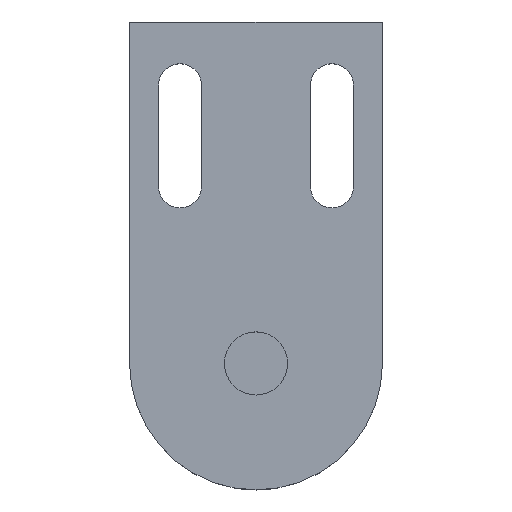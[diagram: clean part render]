
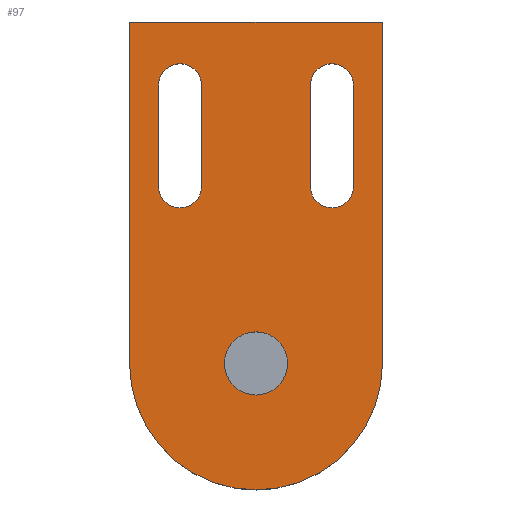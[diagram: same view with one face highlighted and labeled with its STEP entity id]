
A CAD part, top view. The second image highlights one B-rep face of the part: STEP entity #97.
In plain terms, the highlighted planar face has unit normal (0, 0, 1).
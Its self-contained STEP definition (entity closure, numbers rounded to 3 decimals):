
#1 = CARTESIAN_POINT ( 'NONE',  ( -10.75, 35., 6. ) ) ;
#2 = LINE ( 'NONE', #1, #4 ) ;
#3 = DIRECTION ( 'NONE',  ( 0., 1., 0. ) ) ;
#4 = VECTOR ( 'NONE', #3, 1000. ) ;
#5 = LINE ( 'NONE', #6, #7 ) ;
#6 = CARTESIAN_POINT ( 'NONE',  ( 19.25, 35., 6. ) ) ;
#7 = VECTOR ( 'NONE', #8, 1000. ) ;
#8 = DIRECTION ( 'NONE',  ( 0., 1., 0. ) ) ;
#9 = CARTESIAN_POINT ( 'NONE',  ( -10.75, 35., 6. ) ) ;
#11 = CARTESIAN_POINT ( 'NONE',  ( -19.25, 35., 6. ) ) ;
#16 = EDGE_LOOP ( 'NONE', ( #92, #44 ) ) ;
#17 = EDGE_CURVE ( 'NONE', #747, #748, #118, .T. ) ;
#18 = EDGE_CURVE ( 'NONE', #754, #739, #111, .T. ) ;
#19 = VERTEX_POINT ( 'NONE', #113 ) ;
#22 = ORIENTED_EDGE ( 'NONE', *, *, #50, .F. ) ;
#36 = ORIENTED_EDGE ( 'NONE', *, *, #38, .F. ) ;
#37 = EDGE_CURVE ( 'NONE', #19, #49, #119, .T. ) ;
#38 = EDGE_CURVE ( 'NONE', #47, #19, #104, .T. ) ;
#41 = EDGE_LOOP ( 'NONE', ( #43, #36, #22, #682 ) ) ;
#43 = ORIENTED_EDGE ( 'NONE', *, *, #37, .F. ) ;
#44 = ORIENTED_EDGE ( 'NONE', *, *, #743, .F. ) ;
#47 = VERTEX_POINT ( 'NONE', #105 ) ;
#49 = VERTEX_POINT ( 'NONE', #100 ) ;
#50 = EDGE_CURVE ( 'NONE', #85, #47, #107, .T. ) ;
#51 = EDGE_LOOP ( 'NONE', ( #723, #722, #681, #724 ) ) ;
#85 = VERTEX_POINT ( 'NONE', #143 ) ;
#92 = ORIENTED_EDGE ( 'NONE', *, *, #17, .F. ) ;
#95 = EDGE_CURVE ( 'NONE', #761, #754, #170, .T. ) ;
#97 = ADVANCED_FACE ( 'NONE', ( #182, #171, #167, #166 ), #134, .T. ) ;
#100 = CARTESIAN_POINT ( 'NONE',  ( 19.25, 35., 6. ) ) ;
#101 = DIRECTION ( 'NONE',  ( -1., 0., 0. ) ) ;
#102 = DIRECTION ( 'NONE',  ( 0., 0., 1. ) ) ;
#103 = AXIS2_PLACEMENT_3D ( 'NONE', #121, #102, #101 ) ;
#104 = LINE ( 'NONE', #122, #158 ) ;
#105 = CARTESIAN_POINT ( 'NONE',  ( 10.75, 55., 6. ) ) ;
#107 = CIRCLE ( 'NONE', #153, 4.25 ) ;
#109 = DIRECTION ( 'NONE',  ( 0., -1., 0. ) ) ;
#110 = VECTOR ( 'NONE', #109, 1000. ) ;
#111 = LINE ( 'NONE', #120, #110 ) ;
#113 = CARTESIAN_POINT ( 'NONE',  ( 10.75, 35., 6. ) ) ;
#114 = DIRECTION ( 'NONE',  ( 1., 0., 0. ) ) ;
#115 = DIRECTION ( 'NONE',  ( 0., 0., 1. ) ) ;
#116 = CARTESIAN_POINT ( 'NONE',  ( 0., 0., 6. ) ) ;
#117 = AXIS2_PLACEMENT_3D ( 'NONE', #116, #115, #114 ) ;
#118 = CIRCLE ( 'NONE', #117, 6.25 ) ;
#119 = CIRCLE ( 'NONE', #103, 4.25 ) ;
#120 = CARTESIAN_POINT ( 'NONE',  ( -25., 0., 6. ) ) ;
#121 = CARTESIAN_POINT ( 'NONE',  ( 15., 35., 6. ) ) ;
#122 = CARTESIAN_POINT ( 'NONE',  ( 10.75, 35., 6. ) ) ;
#134 = PLANE ( 'NONE',  #183 ) ;
#143 = CARTESIAN_POINT ( 'NONE',  ( 19.25, 55., 6. ) ) ;
#150 = DIRECTION ( 'NONE',  ( -1., 0., 0. ) ) ;
#151 = DIRECTION ( 'NONE',  ( 0., 0., 1. ) ) ;
#152 = CARTESIAN_POINT ( 'NONE',  ( 15., 55., 6. ) ) ;
#153 = AXIS2_PLACEMENT_3D ( 'NONE', #152, #151, #150 ) ;
#157 = DIRECTION ( 'NONE',  ( 0., -1., 0. ) ) ;
#158 = VECTOR ( 'NONE', #157, 1000. ) ;
#161 = DIRECTION ( 'NONE',  ( 1., 0., 0. ) ) ;
#166 = FACE_OUTER_BOUND ( 'NONE', #690, .T. ) ;
#167 = FACE_BOUND ( 'NONE', #51, .T. ) ;
#168 = DIRECTION ( 'NONE',  ( -1., 0., 0. ) ) ;
#169 = VECTOR ( 'NONE', #168, 1000. ) ;
#170 = LINE ( 'NONE', #172, #169 ) ;
#171 = FACE_BOUND ( 'NONE', #41, .T. ) ;
#172 = CARTESIAN_POINT ( 'NONE',  ( 25., 67.5, 6. ) ) ;
#176 = DIRECTION ( 'NONE',  ( 0., 0., 1. ) ) ;
#182 = FACE_BOUND ( 'NONE', #16, .T. ) ;
#183 = AXIS2_PLACEMENT_3D ( 'NONE', #188, #176, #161 ) ;
#188 = CARTESIAN_POINT ( 'NONE',  ( 0., 0., 6. ) ) ;
#361 = DIRECTION ( 'NONE',  ( 1., 0., 0. ) ) ;
#362 = DIRECTION ( 'NONE',  ( 0., 0., 1. ) ) ;
#363 = CARTESIAN_POINT ( 'NONE',  ( -15., 35., 6. ) ) ;
#364 = AXIS2_PLACEMENT_3D ( 'NONE', #363, #362, #361 ) ;
#366 = CIRCLE ( 'NONE', #364, 4.25 ) ;
#367 = DIRECTION ( 'NONE',  ( 0., -1., 0. ) ) ;
#368 = VECTOR ( 'NONE', #367, 1000. ) ;
#369 = CARTESIAN_POINT ( 'NONE',  ( -19.25, 35., 6. ) ) ;
#370 = LINE ( 'NONE', #369, #368 ) ;
#372 = DIRECTION ( 'NONE',  ( 1., 0., 0. ) ) ;
#373 = DIRECTION ( 'NONE',  ( 0., 0., 1. ) ) ;
#374 = CARTESIAN_POINT ( 'NONE',  ( -15., 55., 6. ) ) ;
#379 = CIRCLE ( 'NONE', #384, 4.25 ) ;
#383 = CARTESIAN_POINT ( 'NONE',  ( -19.25, 55., 6. ) ) ;
#384 = AXIS2_PLACEMENT_3D ( 'NONE', #374, #373, #372 ) ;
#398 = AXIS2_PLACEMENT_3D ( 'NONE', #458, #509, #508 ) ;
#403 = CARTESIAN_POINT ( 'NONE',  ( 6.25, 0., 6. ) ) ;
#405 = DIRECTION ( 'NONE',  ( 1., 0., 0. ) ) ;
#406 = DIRECTION ( 'NONE',  ( 0., 0., 1. ) ) ;
#407 = CARTESIAN_POINT ( 'NONE',  ( 0., 0., 6. ) ) ;
#408 = CARTESIAN_POINT ( 'NONE',  ( -6.25, 0., 6. ) ) ;
#409 = CARTESIAN_POINT ( 'NONE',  ( -25., 0., 6. ) ) ;
#410 = CIRCLE ( 'NONE', #416, 6.25 ) ;
#416 = AXIS2_PLACEMENT_3D ( 'NONE', #407, #406, #405 ) ;
#424 = CARTESIAN_POINT ( 'NONE',  ( -25., 67.5, 6. ) ) ;
#458 = CARTESIAN_POINT ( 'NONE',  ( 0., 0., 6. ) ) ;
#462 = CIRCLE ( 'NONE', #398, 25. ) ;
#464 = DIRECTION ( 'NONE',  ( 0., 1., 0. ) ) ;
#465 = VECTOR ( 'NONE', #464, 1000. ) ;
#466 = CARTESIAN_POINT ( 'NONE',  ( 25., 0., 6. ) ) ;
#467 = LINE ( 'NONE', #466, #465 ) ;
#476 = CARTESIAN_POINT ( 'NONE',  ( 25., 67.5, 6. ) ) ;
#508 = DIRECTION ( 'NONE',  ( 1., 0., 0. ) ) ;
#509 = DIRECTION ( 'NONE',  ( 0., 0., 1. ) ) ;
#511 = CARTESIAN_POINT ( 'NONE',  ( 25., 0., 6. ) ) ;
#590 = CARTESIAN_POINT ( 'NONE',  ( -10.75, 55., 6. ) ) ;
#680 = VERTEX_POINT ( 'NONE', #590 ) ;
#681 = ORIENTED_EDGE ( 'NONE', *, *, #720, .F. ) ;
#682 = ORIENTED_EDGE ( 'NONE', *, *, #698, .F. ) ;
#688 = VERTEX_POINT ( 'NONE', #9 ) ;
#689 = VERTEX_POINT ( 'NONE', #11 ) ;
#690 = EDGE_LOOP ( 'NONE', ( #718, #717, #716, #728 ) ) ;
#691 = EDGE_CURVE ( 'NONE', #688, #680, #2, .T. ) ;
#698 = EDGE_CURVE ( 'NONE', #49, #85, #5, .T. ) ;
#716 = ORIENTED_EDGE ( 'NONE', *, *, #95, .T. ) ;
#717 = ORIENTED_EDGE ( 'NONE', *, *, #767, .T. ) ;
#718 = ORIENTED_EDGE ( 'NONE', *, *, #772, .T. ) ;
#719 = VERTEX_POINT ( 'NONE', #383 ) ;
#720 = EDGE_CURVE ( 'NONE', #680, #719, #379, .T. ) ;
#721 = EDGE_CURVE ( 'NONE', #719, #689, #370, .T. ) ;
#722 = ORIENTED_EDGE ( 'NONE', *, *, #721, .F. ) ;
#723 = ORIENTED_EDGE ( 'NONE', *, *, #725, .F. ) ;
#724 = ORIENTED_EDGE ( 'NONE', *, *, #691, .F. ) ;
#725 = EDGE_CURVE ( 'NONE', #689, #688, #366, .T. ) ;
#728 = ORIENTED_EDGE ( 'NONE', *, *, #18, .T. ) ;
#739 = VERTEX_POINT ( 'NONE', #409 ) ;
#743 = EDGE_CURVE ( 'NONE', #748, #747, #410, .T. ) ;
#747 = VERTEX_POINT ( 'NONE', #403 ) ;
#748 = VERTEX_POINT ( 'NONE', #408 ) ;
#754 = VERTEX_POINT ( 'NONE', #424 ) ;
#761 = VERTEX_POINT ( 'NONE', #476 ) ;
#767 = EDGE_CURVE ( 'NONE', #779, #761, #467, .T. ) ;
#772 = EDGE_CURVE ( 'NONE', #739, #779, #462, .T. ) ;
#779 = VERTEX_POINT ( 'NONE', #511 ) ;
